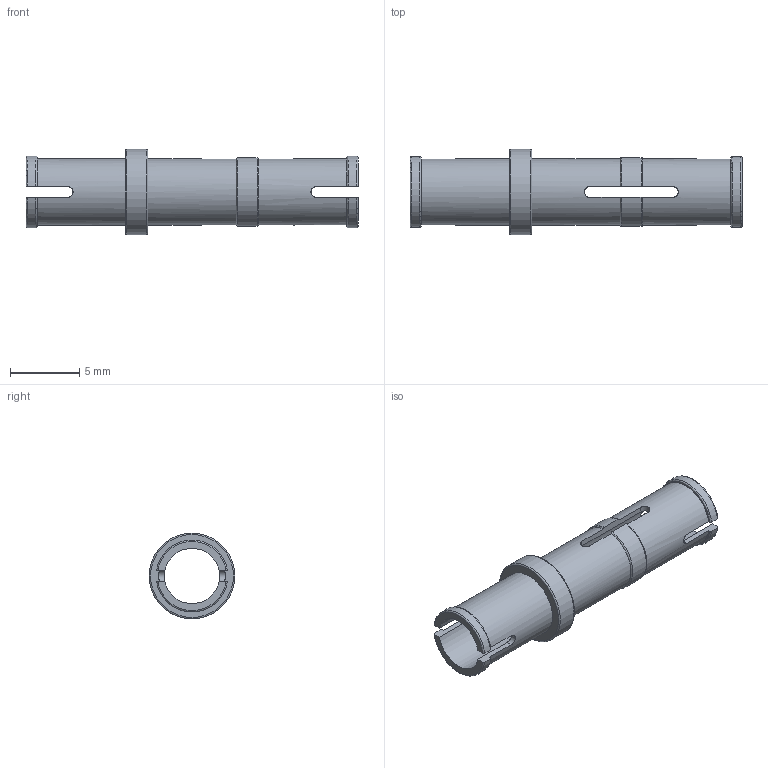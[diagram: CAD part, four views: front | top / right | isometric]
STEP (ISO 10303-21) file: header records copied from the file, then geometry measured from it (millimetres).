
FILE_DESCRIPTION(/* description */ ('Unknown'),/* implementation_level */ '2;1');
FILE_NAME(/* name */ 'Sand_4514554_MCM',/* time_stamp */ '2025-07-22T00:04:07+02:00',/* author */ ('Unknown'),/* organization */ ('Unknown'),/* preprocessor_version */ 'ST-DEVELOPER v19.4',/* originating_system */ 'Solid Edge',/* authorisation */ 'Unknown');
FILE_SCHEMA (('AUTOMOTIVE_DESIGN {1 0 10303 214 3 1 1}'));
Length unit declared in the file: millimetre
Products named in the file (1): Sand_4514554_MCM
Bounding box: 24 x 6.2 x 6.2 mm (x, y, z)
Volume: 150 mm3; surface area: 699 mm2
Topology: 1 solids, 1 shells, 55 faces, 161 edges, 106 vertices
Faces by surface type: plane 22, cylinder 19, torus 14
Full cylindrical faces by diameter (mm): 4 x1, 4.8 x3, 6.2 x1
Entity records: 1848 total; most frequent: CARTESIAN_POINT 444, ORIENTED_EDGE 300, DIRECTION 260, EDGE_CURVE 150, VERTEX_POINT 102, AXIS2_PLACEMENT_3D 94, LINE 72, VECTOR 72
